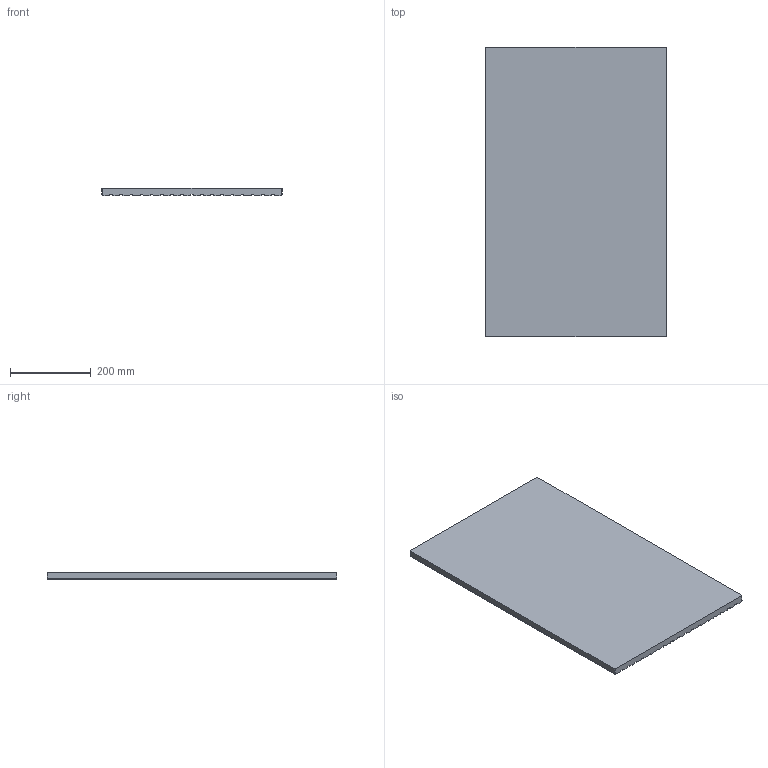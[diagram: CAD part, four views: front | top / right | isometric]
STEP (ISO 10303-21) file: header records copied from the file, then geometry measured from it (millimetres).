
FILE_DESCRIPTION(/* description */ (''),/* implementation_level */ '2;1');
FILE_NAME(/* name */ 'B104.stp',/* time_stamp */ '2024-06-11T15:41:40+02:00',/* author */ ('bzsolt'),/* organization */ (''),/* preprocessor_version */ 'ST-DEVELOPER v20',/* originating_system */ 'Autodesk Inventor 2025',/* authorisation */ '');
FILE_SCHEMA (('AUTOMOTIVE_DESIGN { 1 0 10303 214 3 1 1 }'));
Length unit declared in the file: millimetre
Products named in the file (1): B104
Bounding box: 447 x 718 x 18 mm (x, y, z)
Volume: 5520231 mm3; surface area: 733956.2 mm2
Topology: 1 solids, 1 shells, 450 faces, 976 edges, 528 vertices
Faces by surface type: cylinder 220, plane 78, sphere 72, torus 72, bspline 8
Entity records: 12227 total; most frequent: DIRECTION 2378, CARTESIAN_POINT 2159, ORIENTED_EDGE 1952, EDGE_CURVE 976, AXIS2_PLACEMENT_3D 967, VERTEX_POINT 528, CIRCLE 516, FACE_OUTER_BOUND 450
